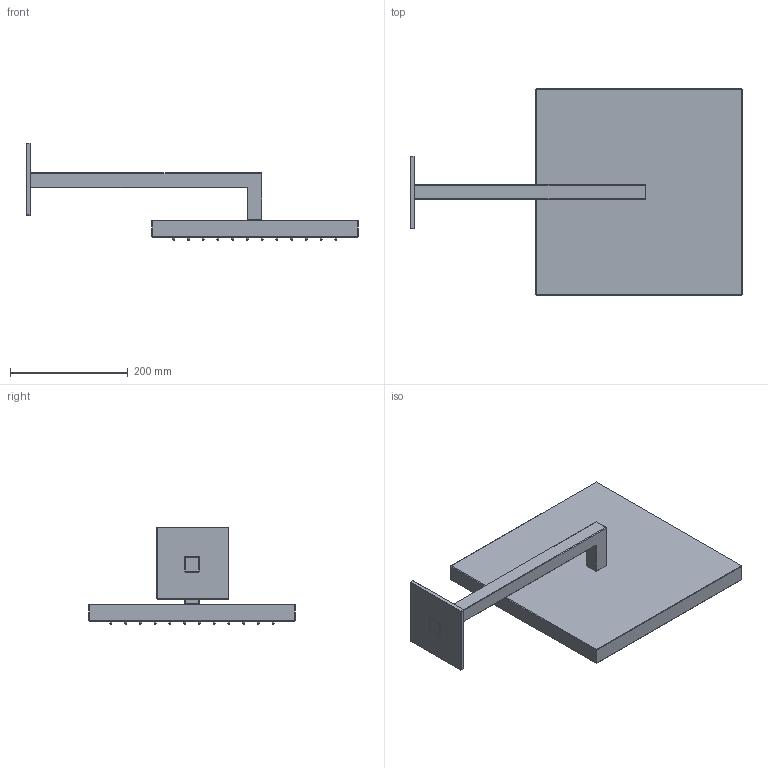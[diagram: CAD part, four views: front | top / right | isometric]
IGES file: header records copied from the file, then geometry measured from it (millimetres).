
Global section: file name: D:\Desktop\GIOVANNI\SCHEDE PRODOTTO\SOFFIONI\SOLID SHOWER\3D\MOMA DESIGN_SOFFIONI_SOLID SHOWER FLAT.igs; native system: Rhinoceros ( Jan 17 2018 ); preprocessor: Trout Lake IGES 012 Jan 17 2018; date: 230523.154659; units: millimetre
Bounding box: 563 x 350 x 165.08 mm (x, y, z)
Surface area: 373808.9 mm2 (no closed solid volume)
Topology: 0 solids, 0 shells, 1600 faces, 7838 edges, 7780 vertices
Faces by surface type: bspline 1600
